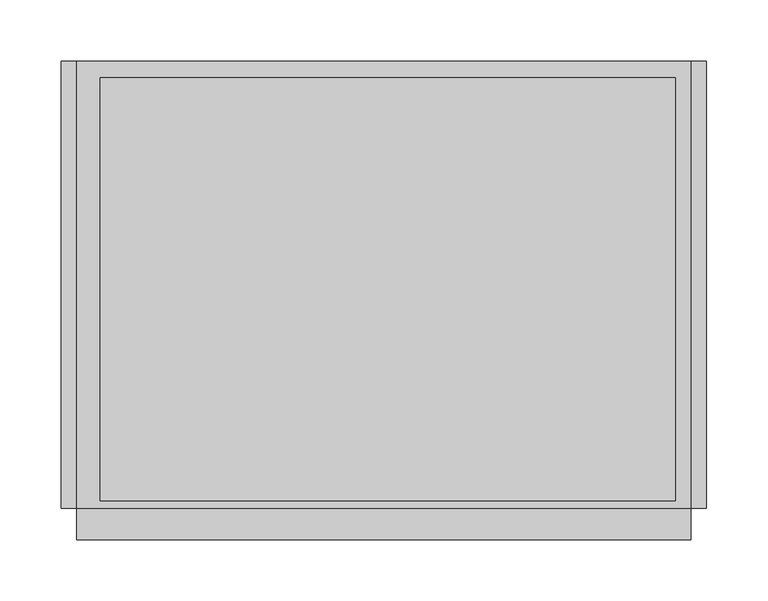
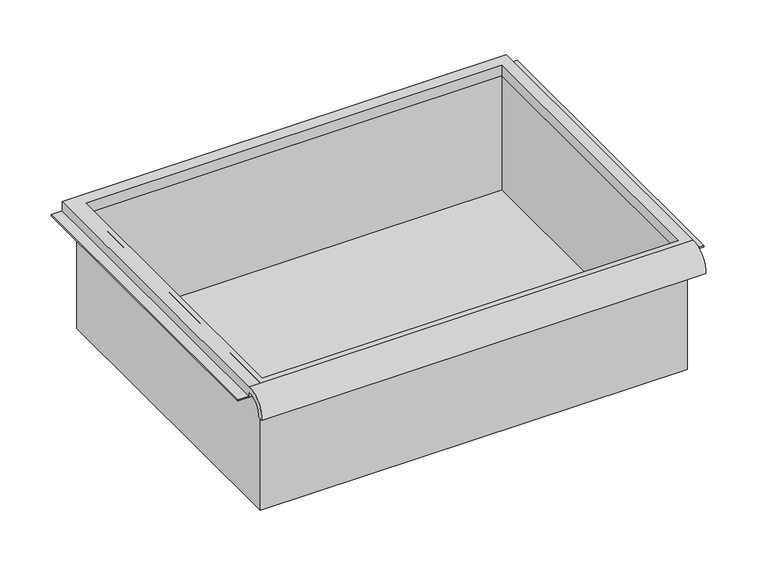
"""IFC4 building model written with IfcOpenShell, lengths in millimetres: furniture geometry."""

import ifcopenshell
import ifcopenshell.guid

model = None  # the IFC model being written
_history = None  # IfcOwnerHistory: only IFC2X3 demands one
_inside = {}  # id of a spatial element -> (the spatial element, [elements in it])
_under = {}  # id of a project, library or spatial element -> (it, [spatial elements below it])
_declared = {}  # id of a project -> (the project, [libraries it declares])
_typed = {}  # id of a type object -> (the type object, [elements of that type])
_made_of = {}  # id of a material, layer set ... -> (it, [elements and type objects made of it])


def new_model(schema):
    """Start an empty IFC model of exactly this schema.

    Asked for "IFC4X3", IfcOpenShell would pick the latest addendum, in which some entities
    have other attributes; the version numbers below select the first issue.
    IFC2X3 requires an IfcOwnerHistory on every rooted entity: one is made here for all.
    """
    global model, _history
    if schema == "IFC4X3":
        model = ifcopenshell.file(schema_version=(4, 3, 0, 0))
    else:
        model = ifcopenshell.file(schema=schema)
    _inside.clear()
    _under.clear()
    _declared.clear()
    _typed.clear()
    _made_of.clear()
    _history = None
    if model.schema == "IFC2X3":
        org = make("IfcOrganization", Name="unknown")
        user = make(
            "IfcPersonAndOrganization",
            ThePerson=make("IfcPerson", FamilyName="unknown"),
            TheOrganization=org,
        )
        app = make(
            "IfcApplication",
            ApplicationDeveloper=org,
            Version="unknown",
            ApplicationFullName="unknown",
            ApplicationIdentifier="unknown",
        )
        _history = make(
            "IfcOwnerHistory",
            OwningUser=user,
            OwningApplication=app,
            ChangeAction="ADDED",
            CreationDate=0,
        )
    return model


def make(cls, **values):
    """One entity of the class cls with the attributes given. An attribute that is None is left unset."""
    return model.create_entity(
        cls, **{name: value for name, value in values.items() if value is not None}
    )


def rooted(cls, **values):
    """An entity with a GlobalId (a new one), such as an element, a storey or a relation."""
    return make(cls, GlobalId=ifcopenshell.guid.new(), OwnerHistory=_history, **values)


def si_unit(unit_type, name, prefix=None):
    """IfcSIUnit, for example si_unit("LENGTHUNIT", "METRE", prefix="MILLI")."""
    return make("IfcSIUnit", UnitType=unit_type, Prefix=prefix, Name=name)


def assignment(units):
    """IfcUnitAssignment: the units of a project."""
    return None if units is None else make("IfcUnitAssignment", Units=units)


def point(xyz):
    """IfcCartesianPoint."""
    return None if xyz is None else make("IfcCartesianPoint", Coordinates=xyz)


def direction(xyz):
    """IfcDirection."""
    return None if xyz is None else make("IfcDirection", DirectionRatios=xyz)


def frame(location, z_axis=None, x_axis=None):
    """IfcAxis2Placement3D, a coordinate frame: its origin and axes. An axis left out is left unset."""
    return make(
        "IfcAxis2Placement3D",
        Location=point(location),
        Axis=direction(z_axis),
        RefDirection=direction(x_axis),
    )


def origin():
    """The frame at (0, 0, 0) with its axes left unset."""
    return frame((0.0, 0.0, 0.0))


def place(relative_to, where):
    """IfcLocalPlacement: puts the frame where relative to a parent placement (None: the world)."""
    return make(
        "IfcLocalPlacement", PlacementRelTo=relative_to, RelativePlacement=where
    )


def context(
    kind, dimensions, precision=None, world=None, true_north=None, identifier=None
):
    """IfcGeometricRepresentationContext, for example the 3D "Model" context."""
    return make(
        "IfcGeometricRepresentationContext",
        ContextIdentifier=identifier,
        ContextType=kind,
        CoordinateSpaceDimension=dimensions,
        Precision=precision,
        WorldCoordinateSystem=world,
        TrueNorth=true_north,
    )


def project(units=None, contexts=None):
    """IfcProject with its units and contexts."""
    return rooted(
        "IfcProject",
        Name="project",
        RepresentationContexts=contexts,
        UnitsInContext=assignment(units),
    )


def spatial(cls, under=None, at=None, **own):
    """A site, building, storey or space (cls), placed at a placement, below another one or the project."""
    s = rooted(cls, ObjectPlacement=at, **own)
    if under is not None:
        _under.setdefault(under.id(), (under, []))[1].append(s)
    return s


def polyline(points):
    """IfcPolyline through the points."""
    return make("IfcPolyline", Points=[point(p) for p in points])


def circle_curve(where, radius):
    """IfcCircle in the frame where."""
    return make("IfcCircle", Position=where, Radius=radius)


def faces_of(points, faces, orient=None, outer=None):
    """IfcFace entities. A face is a list of loops; a loop is a list of indices into points, from 0.

    orient and outer hold one flag for each loop. By default every Orientation is true, the
    first loop of a face is its IfcFaceOuterBound and the others are IfcFaceBound.
    """
    made = []
    for i, loops in enumerate(faces):
        bounds = []
        for j, loop in enumerate(loops):
            is_outer = j == 0 if outer is None else outer[i][j]
            bounds.append(
                make(
                    "IfcFaceOuterBound" if is_outer else "IfcFaceBound",
                    Bound=make("IfcPolyLoop", Polygon=[points[k] for k in loop]),
                    Orientation=True if orient is None else orient[i][j],
                )
            )
        made.append(make("IfcFace", Bounds=bounds))
    return made


def faceted_brep(points, faces, orient=None, outer=None, voids=None):
    """IfcFacetedBrep: a solid bounded by flat faces; with voids (closed shells), ...WithVoids."""
    shared = [point(p) for p in points]
    hull = make("IfcClosedShell", CfsFaces=faces_of(shared, faces, orient, outer))
    if voids is None:
        return make("IfcFacetedBrep", Outer=hull)
    return make(
        "IfcFacetedBrepWithVoids",
        Outer=hull,
        Voids=[
            make(cls, CfsFaces=faces_of(shared, fs, o, b)) for cls, fs, o, b in voids
        ],
    )


def shape(context_of_items, identifier, shape_type, items):
    """IfcShapeRepresentation: the items that make up one representation, for example the "Body"."""
    return make(
        "IfcShapeRepresentation",
        ContextOfItems=context_of_items,
        RepresentationIdentifier=identifier,
        RepresentationType=shape_type,
        Items=items,
    )


def source(mapping_origin, context_of_items, identifier, shape_type, items):
    """IfcRepresentationMap: a shape defined once, which mapped items show again and again."""
    return make(
        "IfcRepresentationMap",
        MappingOrigin=mapping_origin,
        MappedRepresentation=shape(context_of_items, identifier, shape_type, items),
    )


def transform(
    local_origin,
    x_axis=None,
    y_axis=None,
    z_axis=None,
    scale=None,
    scale2=None,
    scale3=None,
    uniform=True,
):
    """IfcCartesianTransformationOperator3D, or its non-uniform kind. x_axis, y_axis, z_axis: its Axis1, 2, 3."""
    if uniform:
        return make(
            "IfcCartesianTransformationOperator3D",
            Axis1=direction(x_axis),
            Axis2=direction(y_axis),
            LocalOrigin=point(local_origin),
            Scale=scale,
            Axis3=direction(z_axis),
        )
    return make(
        "IfcCartesianTransformationOperator3DnonUniform",
        Axis1=direction(x_axis),
        Axis2=direction(y_axis),
        LocalOrigin=point(local_origin),
        Scale=scale,
        Axis3=direction(z_axis),
        Scale2=scale2,
        Scale3=scale3,
    )


def mapped(mapping_source, mapping_target):
    """IfcMappedItem: shows the shape of a source again, moved by a transform."""
    return make(
        "IfcMappedItem", MappingSource=mapping_source, MappingTarget=mapping_target
    )


def made_of(thing, what):
    """Note that an element or type object is made of a material, layer set ...; save() writes the relation."""
    if what is not None:
        _made_of.setdefault(what.id(), (what, []))[1].append(thing)
    return thing


def element(
    cls,
    number,
    at=None,
    inside=None,
    cuts=None,
    type_object=None,
    material=None,
    context=None,
    identifier="Body",
    shape_type=None,
    held_by="IfcProductDefinitionShape",
    body=None,
    shapes=None,
    **own,
):
    """One element of the class cls, such as IfcWall. Its Tag is "e" and its number.

    at: its placement. inside: the storey or other place that contains it. cuts: it is an
    opening in that element (IfcRelVoidsElement). A single representation is given by context,
    identifier, shape_type and body (its items); several are given by shapes. held_by: the class
    of the entity that holds the representations. save() writes the other relations.
    """
    e = rooted(cls, Tag="e%d" % number, ObjectPlacement=at, **own)
    if body is not None:
        shapes = [shape(context, identifier, shape_type, body)]
    if shapes is not None:
        e.Representation = make(held_by, Representations=shapes)
    if inside is not None:
        _inside.setdefault(inside.id(), (inside, []))[1].append(e)
    if cuts is not None:
        rooted(
            "IfcRelVoidsElement", RelatingBuildingElement=cuts, RelatedOpeningElement=e
        )
    if type_object is not None:
        _typed.setdefault(type_object.id(), (type_object, []))[1].append(e)
    return made_of(e, material)


def aggregate(whole, parts):
    """IfcRelAggregates: a whole, such as a stair, and the parts it consists of."""
    return rooted("IfcRelAggregates", RelatingObject=whole, RelatedObjects=parts)


def save(model, path):
    """Write the relations noted so far, then the file.

    IfcRelAggregates (storeys below a building ...), IfcRelContainedInSpatialStructure (elements
    in a storey), IfcRelDefinesByType, IfcRelAssociatesMaterial and IfcRelDeclares: one each for
    every whole, place, type object, material and project.
    """
    for whole, parts in _under.values():
        aggregate(whole, parts)
    for where, things in _inside.values():
        rooted(
            "IfcRelContainedInSpatialStructure",
            RelatedElements=things,
            RelatingStructure=where,
        )
    for kind, things in _typed.values():
        rooted("IfcRelDefinesByType", RelatedObjects=things, RelatingType=kind)
    for what, things in _made_of.values():
        rooted("IfcRelAssociatesMaterial", RelatedObjects=things, RelatingMaterial=what)
    for by, libraries in _declared.values():
        rooted("IfcRelDeclares", RelatingContext=by, RelatedDefinitions=libraries)
    model.write(path)


def plane_surface(at):
    """IfcPlane: the flat surface through the origin of the frame at, square to its z axis."""
    return make("IfcPlane", Position=at)


def cylinder_surface(at, radius):
    """IfcCylindricalSurface: all points at the distance radius from the z axis of the frame at."""
    return make("IfcCylindricalSurface", Position=at, Radius=radius)


def revolved_surface(curve, axis_point, axis_direction):
    """IfcSurfaceOfRevolution: the curve turned about the line through axis_point along axis_direction."""
    return make(
        "IfcSurfaceOfRevolution",
        SweptCurve=make("IfcArbitraryOpenProfileDef", ProfileType="CURVE", Curve=curve),
        AxisPosition=make("IfcAxis1Placement", Location=point(axis_point), Axis=direction(axis_direction)),
    )


def advanced_brep(points, edges, surfaces, faces):
    """IfcAdvancedBrep: a solid bounded by faces that lie on surfaces and meet in shared edges.

    An edge is (start, end): straight between two places in points (the first is 0);
    or (start, end, curve); or (start, end, curve, False) where it runs against its curve.
    A face is (place in surfaces, loops), or (place, loops, False) where it looks against
    its surface's normal. A loop lists edges by number (the first is 1), with a minus sign
    where the edge is run from its end to its start. The first loop is the outer one.
    """
    corners = [point(p) for p in points]
    vertices = [make("IfcVertexPoint", VertexGeometry=c) for c in corners]
    made = []
    for start, end, *more in edges:
        made.append(
            make(
                "IfcEdgeCurve",
                EdgeStart=vertices[start],
                EdgeEnd=vertices[end],
                EdgeGeometry=more[0] if more else make("IfcPolyline", Points=[corners[start], corners[end]]),
                SameSense=more[1] if len(more) > 1 else True,
            )
        )
    hull = []
    for where, loops, *sense in faces:
        bounds = []
        for j, loop in enumerate(loops):
            ring = [make("IfcOrientedEdge", EdgeElement=made[abs(k) - 1], Orientation=k > 0) for k in loop]
            bounds.append(
                make(
                    "IfcFaceOuterBound" if j == 0 else "IfcFaceBound",
                    Bound=make("IfcEdgeLoop", EdgeList=ring),
                    Orientation=True,
                )
            )
        hull.append(make("IfcAdvancedFace", Bounds=bounds, FaceSurface=surfaces[where], SameSense=sense[0] if sense else True))
    return make("IfcAdvancedBrep", Outer=make("IfcClosedShell", CfsFaces=hull))


def furniture_a87b4830(model_context):
    return source(origin(), model_context, "Body", "SolidModel", [
        advanced_brep(
        [(263.7474999, -195.297482, 510.3824118), (263.7474999, -188.9125, 510.3824118), (263.7474999, -169.8625, 528.643885), (263.7474999, -169.8625, 522.2938846), (263.7474999, 195.2625, 522.2938846), (263.7474999, 195.2625, 534.993885), (263.7474999, -169.8625, 534.993885), (-237.9025001, -195.297482, 510.3824118), (-237.9025001, -169.8625, 534.993885), (-237.9025001, 195.2625, 534.993885), (-237.9025001, 195.2625, 522.2938846), (-237.9025001, -169.8625, 522.2938846), (-237.9025001, -169.8625, 528.643885), (-237.9025001, -188.9125, 510.3824118), (251.0474878, 181.9275, 522.2938846), (-218.8095642, 181.9275, 522.2938846), (-218.8095642, -163.5125, 522.2938846), (251.0474878, -163.5125, 522.2938846), (-218.8095642, 181.9275, 534.993885), (251.0474878, 181.9275, 534.993885), (251.0474878, -163.5125, 534.993885), (-218.8095642, -163.5125, 534.993885)],
        [
            (0, 1),
            (1, 2, circle_curve(frame((263.7474999, -172.3404634, 512.1618222), z_axis=(-1.0, 0.0, 0.0), x_axis=(0.0, 1.0, 0.0)), 16.6672942)),
            (2, 3),
            (3, 4),
            (4, 5),
            (5, 6),
            (6, 0, circle_curve(frame((263.7474999, -172.4601678, 512.2297122), z_axis=(1.0, 0.0, 0.0), x_axis=(0.0, 1.0, 0.0)), 22.9119061)),
            (7, 8, circle_curve(frame((-237.9025001, -172.4601678, 512.2297122), z_axis=(-1.0, 0.0, 0.0), x_axis=(0.0, 1.0, 0.0)), 22.9119061)),
            (8, 9),
            (9, 10),
            (10, 11),
            (11, 12),
            (12, 13, circle_curve(frame((-237.9025001, -172.3404634, 512.1618222), z_axis=(1.0, 0.0, 0.0), x_axis=(0.0, 1.0, 0.0)), 16.6672942)),
            (13, 7),
            (0, 7),
            (13, 1),
            (12, 2),
            (11, 3),
            (10, 4),
            (14, 15),
            (15, 16),
            (16, 17),
            (17, 14),
            (9, 5),
            (8, 6),
            (18, 19),
            (19, 20),
            (20, 21),
            (21, 18),
            (14, 19),
            (18, 15),
            (21, 16),
            (20, 17),
        ],
        [
            plane_surface(frame((263.7474999, -195.297482, 510.3824118), z_axis=(1.0, 0.0, 0.0), x_axis=(0.0, 1.0, 0.0))),
            plane_surface(frame((-237.9025001, -195.297482, 510.3824118), z_axis=(-1.0, 0.0, 0.0), x_axis=(0.0, -1.0, 0.0))),
            plane_surface(frame((263.7474999, -195.297482, 510.3824118), z_axis=(0.0, 0.0, -1.0), x_axis=(-1.0, 0.0, 0.0))),
            revolved_surface(polyline([(-237.9025001, -155.67316920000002, 512.1618222), (263.7474999, -155.67316920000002, 512.1618222)]), (-237.9025001, -172.3404634, 512.1618222), (-1.0, 0.0, 0.0)),
            plane_surface(frame((263.7474999, -169.8625, 528.643885), z_axis=(0.0, -1.0, 0.0), x_axis=(-1.0, 0.0, 0.0))),
            plane_surface(frame((263.7474999, -169.8625, 522.2938846), z_axis=(0.0, 0.0, -1.0), x_axis=(-1.0, 0.0, 0.0))),
            plane_surface(frame((263.7474999, 195.2625, 522.2938846), z_axis=(0.0, 1.0, 0.0), x_axis=(-1.0, 0.0, 0.0))),
            plane_surface(frame((263.7474999, 195.2625, 534.993885), z_axis=(0.0, 0.0, 1.0), x_axis=(-1.0, 0.0, 0.0))),
            cylinder_surface(frame((-237.9025001, -172.4601678, 512.2297122), z_axis=(1.0, 0.0, 0.0), x_axis=(0.0, 1.0, 0.0)), 22.9119061),
            plane_surface(frame((251.0474878, 181.9275, 534.993885), z_axis=(0.0, -1.0, 0.0), x_axis=(0.0, 0.0, -1.0))),
            plane_surface(frame((-218.8095642, 181.9275, 534.993885), z_axis=(1.0, 0.0, 0.0), x_axis=(0.0, 0.0, -1.0))),
            plane_surface(frame((-218.8095642, -163.5125, 534.993885), z_axis=(0.0, 1.0, 0.0), x_axis=(0.0, 0.0, -1.0))),
            plane_surface(frame((251.0474878, -163.5125, 534.993885), z_axis=(-1.0, 0.0, 0.0), x_axis=(0.0, 0.0, -1.0))),
        ],
        [
            (0, [[1, 2, 3, 4, 5, 6, 7]]),
            (1, [[8, 9, 10, 11, 12, 13, 14]]),
            (2, [[-1, 15, -14, 16]]),
            (3, [[-2, -16, -13, 17]]),
            (4, [[-3, -17, -12, 18]]),
            (5, [[-4, -18, -11, 19], [20, 21, 22, 23]]),
            (6, [[-5, -19, -10, 24]]),
            (7, [[-6, -24, -9, 25], [26, 27, 28, 29]]),
            (8, [[-7, -25, -8, -15]]),
            (9, [[30, -26, 31, -20]]),
            (10, [[-31, -29, 32, -21]]),
            (11, [[-32, -28, 33, -22]]),
            (12, [[-30, -23, -33, -27]]),
        ],
    ),
        faceted_brep([(-225.2025001, -169.8625, 382.593885), (257.3974878, -169.8625, 382.593885), (257.3974878, -169.8625, 534.993885), (-225.2025001, -169.8625, 534.993885), (-225.2025001, 188.9125, 382.593885), (-225.2025001, 188.9125, 534.993885), (257.3974878, 188.9125, 534.993885), (257.3974878, 188.9125, 382.593885), (-218.8095642, 181.9275, 534.993885), (251.0474878, 181.9275, 534.993885), (251.0474878, -163.5125, 534.993885), (-218.8095642, -163.5125, 534.993885), (251.0474878, 181.9275, 385.768885), (-218.8095642, 181.9275, 385.768885), (-218.8095642, -163.5125, 385.768885), (251.0474878, -163.5125, 385.768885)], [[[0, 1, 2, 3]], [[4, 5, 6, 7]], [[1, 0, 4, 7]], [[2, 1, 7, 6]], [[3, 2, 6, 5], [8, 9, 10, 11]], [[0, 3, 5, 4]], [[12, 13, 14, 15]], [[13, 12, 9, 8]], [[14, 13, 8, 11]], [[15, 14, 11, 10]], [[12, 15, 10, 9]]]),
        faceted_brep([(-250.6025001, 195.2625, 522.2938846), (-250.6025001, 195.2625, 523.8813846), (-231.5525001, 195.2625, 523.8813846), (-231.5525001, 195.2625, 522.2938846), (-250.6025001, -169.8625, 522.2938846), (-231.5525001, -169.8625, 522.2938846), (-231.5525001, -169.8625, 523.8813846), (-250.6025001, -169.8625, 523.8813846)], [[[0, 1, 2, 3]], [[4, 5, 6, 7]], [[1, 0, 4, 7]], [[2, 1, 7, 6]], [[3, 2, 6, 5]], [[0, 3, 5, 4]]]),
        faceted_brep([(276.4474999, 195.2625, 522.2938846), (263.7474999, 195.2625, 522.2938846), (263.7474999, 195.2625, 523.8813846), (276.4474999, 195.2625, 523.8813846), (276.4474999, -169.8625, 522.2938846), (276.4474999, -169.8625, 523.8813846), (263.7474999, -169.8625, 523.8813846), (263.7474999, -169.8625, 522.2938846)], [[[0, 1, 2, 3]], [[4, 5, 6, 7]], [[1, 0, 4, 7]], [[2, 1, 7, 6]], [[3, 2, 6, 5]], [[0, 3, 5, 4]]]),
    ])


if __name__ == "__main__":
    model = new_model("IFC4")
    model_context = context("Model", 3, world=origin())
    ifc_project = project(units=[si_unit("LENGTHUNIT", "METRE", prefix="MILLI")], contexts=[model_context])
    site = spatial("IfcSite", under=ifc_project)
    building = spatial("IfcBuilding", under=site)
    placement = place(None, origin())
    furniture_shape = furniture_a87b4830(model_context)
    element("IfcFurniture", 1, ObjectType="HermanMiller_Carts_CT501_Drawer : 6\"H x 15\"D x 20\"W", at=placement, inside=building, context=model_context, shape_type="MappedRepresentation", body=[
        mapped(furniture_shape, transform((0.0, 0.0, 0.0), x_axis=(1.0, 0.0, 0.0), y_axis=(0.0, 1.0, 0.0), z_axis=(0.0, 0.0, 1.0))),
    ])
    save(model, "model.ifc")
